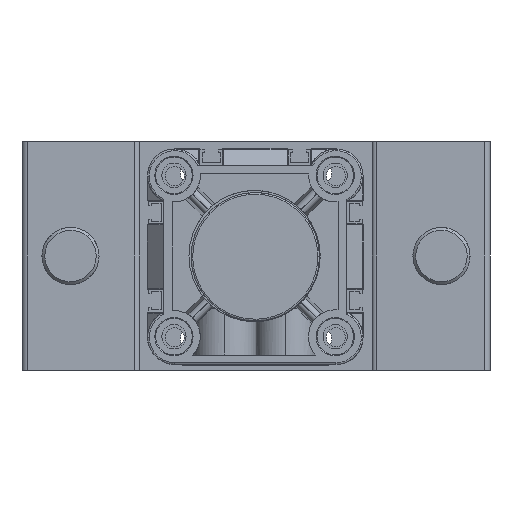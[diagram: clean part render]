
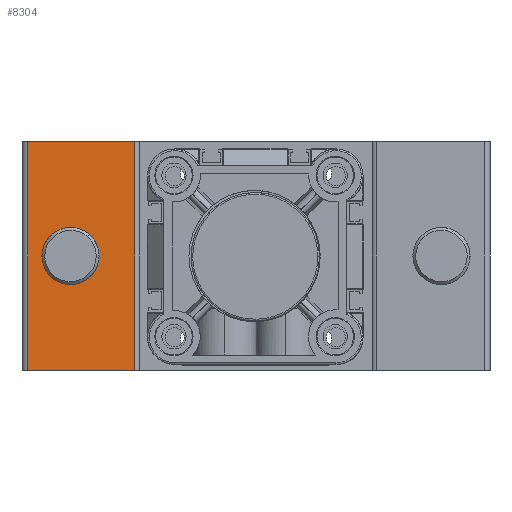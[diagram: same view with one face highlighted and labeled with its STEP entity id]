
A CAD part, front view. The second image highlights one B-rep face of the part: STEP entity #8304.
In plain terms, the highlighted planar face has unit normal (0, -1, 0).
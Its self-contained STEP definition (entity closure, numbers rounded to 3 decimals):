
#205 = VERTEX_POINT ( 'NONE', #35159 ) ;
#488 = VECTOR ( 'NONE', #16500, 1000. ) ;
#569 = LINE ( 'NONE', #16508, #488 ) ;
#799 = EDGE_CURVE ( 'NONE', #26065, #25094, #569, .T. ) ;
#1202 = VERTEX_POINT ( 'NONE', #2721 ) ;
#1459 = ORIENTED_EDGE ( 'NONE', *, *, #11284, .F. ) ;
#1699 = ORIENTED_EDGE ( 'NONE', *, *, #17843, .F. ) ;
#1772 = ORIENTED_EDGE ( 'NONE', *, *, #28632, .T. ) ;
#2388 = ORIENTED_EDGE ( 'NONE', *, *, #799, .F. ) ;
#2714 = ORIENTED_EDGE ( 'NONE', *, *, #7208, .F. ) ;
#2721 = CARTESIAN_POINT ( 'NONE',  ( 2., -80., 80. ) ) ;
#2855 = ORIENTED_EDGE ( 'NONE', *, *, #7758, .T. ) ;
#5375 = CARTESIAN_POINT ( 'NONE',  ( 2., -80., 80. ) ) ;
#5501 = DIRECTION ( 'NONE',  ( 0., 0., -1. ) ) ;
#5731 = VERTEX_POINT ( 'NONE', #32591 ) ;
#7208 = EDGE_CURVE ( 'NONE', #1202, #26065, #19383, .T. ) ;
#7758 = EDGE_CURVE ( 'NONE', #1202, #30927, #15493, .T. ) ;
#8304 = ADVANCED_FACE ( 'NONE', ( #11931, #12099 ), #27288, .F. ) ;
#8431 = LINE ( 'NONE', #9787, #27505 ) ;
#8804 = DIRECTION ( 'NONE',  ( -1., 0., 0. ) ) ;
#9738 = DIRECTION ( 'NONE',  ( 1., 0., 0. ) ) ;
#9787 = CARTESIAN_POINT ( 'NONE',  ( 39.441, -80., 0. ) ) ;
#9965 = DIRECTION ( 'NONE',  ( 1., 0., 0. ) ) ;
#11284 = EDGE_CURVE ( 'NONE', #205, #5731, #30616, .T. ) ;
#11931 = FACE_BOUND ( 'NONE', #22936, .T. ) ;
#12099 = FACE_OUTER_BOUND ( 'NONE', #17184, .T. ) ;
#12579 = CARTESIAN_POINT ( 'NONE',  ( 39.441, -80., 80. ) ) ;
#12871 = AXIS2_PLACEMENT_3D ( 'NONE', #28690, #28679, #28634 ) ;
#13478 = DIRECTION ( 'NONE',  ( 1., 0., 0. ) ) ;
#13487 = DIRECTION ( 'NONE',  ( 0., -1., 0. ) ) ;
#15414 = VECTOR ( 'NONE', #5501, 1000. ) ;
#15493 = LINE ( 'NONE', #5375, #15414 ) ;
#16500 = DIRECTION ( 'NONE',  ( 0., 0., -1. ) ) ;
#16508 = CARTESIAN_POINT ( 'NONE',  ( 39.441, -80., 80. ) ) ;
#17184 = EDGE_LOOP ( 'NONE', ( #1772, #2388, #2714, #2855 ) ) ;
#17843 = EDGE_CURVE ( 'NONE', #5731, #205, #31146, .T. ) ;
#19084 = VECTOR ( 'NONE', #9965, 1000. ) ;
#19383 = LINE ( 'NONE', #12579, #19084 ) ;
#19607 = AXIS2_PLACEMENT_3D ( 'NONE', #30822, #27111, #8804 ) ;
#22936 = EDGE_LOOP ( 'NONE', ( #1459, #1699 ) ) ;
#23518 = AXIS2_PLACEMENT_3D ( 'NONE', #37404, #13487, #13478 ) ;
#24442 = CARTESIAN_POINT ( 'NONE',  ( 39.441, -80., 0. ) ) ;
#25094 = VERTEX_POINT ( 'NONE', #24442 ) ;
#26065 = VERTEX_POINT ( 'NONE', #36287 ) ;
#27111 = DIRECTION ( 'NONE',  ( 0., 1., 0. ) ) ;
#27288 = PLANE ( 'NONE',  #19607 ) ;
#27505 = VECTOR ( 'NONE', #9738, 1000. ) ;
#28632 = EDGE_CURVE ( 'NONE', #30927, #25094, #8431, .T. ) ;
#28634 = DIRECTION ( 'NONE',  ( 1., 0., 0. ) ) ;
#28679 = DIRECTION ( 'NONE',  ( 0., -1., 0. ) ) ;
#28690 = CARTESIAN_POINT ( 'NONE',  ( 17., -80., 40. ) ) ;
#30616 = CIRCLE ( 'NONE', #12871, 10. ) ;
#30822 = CARTESIAN_POINT ( 'NONE',  ( 39.441, -80., 80. ) ) ;
#30927 = VERTEX_POINT ( 'NONE', #36374 ) ;
#31146 = CIRCLE ( 'NONE', #23518, 10. ) ;
#32591 = CARTESIAN_POINT ( 'NONE',  ( 7., -80., 40. ) ) ;
#35159 = CARTESIAN_POINT ( 'NONE',  ( 27., -80., 40. ) ) ;
#36287 = CARTESIAN_POINT ( 'NONE',  ( 39.441, -80., 80. ) ) ;
#36374 = CARTESIAN_POINT ( 'NONE',  ( 2., -80., 0. ) ) ;
#37404 = CARTESIAN_POINT ( 'NONE',  ( 17., -80., 40. ) ) ;
